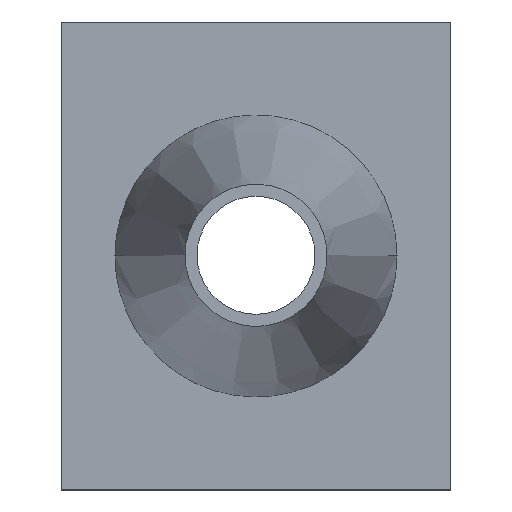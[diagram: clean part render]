
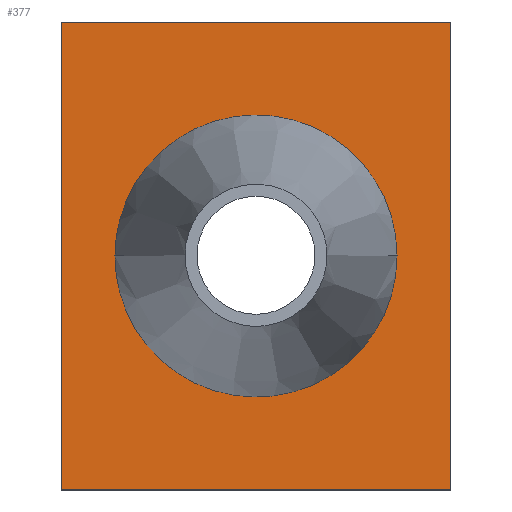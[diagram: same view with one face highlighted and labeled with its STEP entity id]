
A CAD part, top view. The second image highlights one B-rep face of the part: STEP entity #377.
In plain terms, the highlighted planar face has unit normal (0, 0, 1).
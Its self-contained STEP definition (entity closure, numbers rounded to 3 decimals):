
#167=CARTESIAN_POINT('Vertex',(0.,119.,3.)) ;
#174=CARTESIAN_POINT('Vertex',(0.,0.,3.)) ;
#177=CARTESIAN_POINT('Line Origine',(0.,59.5,3.)) ;
#198=CARTESIAN_POINT('Vertex',(99.,119.,3.)) ;
#201=CARTESIAN_POINT('Line Origine',(49.5,119.,3.)) ;
#222=CARTESIAN_POINT('Vertex',(99.,0.,3.)) ;
#225=CARTESIAN_POINT('Line Origine',(99.,59.5,3.)) ;
#242=CARTESIAN_POINT('Line Origine',(49.5,0.,3.)) ;
#324=CARTESIAN_POINT('Axis2P3D Location',(0.,0.,3.)) ;
#336=CARTESIAN_POINT('Control Point',(85.355,59.5,3.)) ;
#337=CARTESIAN_POINT('Control Point',(85.355,65.382,3.)) ;
#338=CARTESIAN_POINT('Control Point',(84.149,71.265,3.)) ;
#339=CARTESIAN_POINT('Control Point',(81.734,76.818,3.)) ;
#340=CARTESIAN_POINT('Control Point',(74.775,86.606,3.)) ;
#341=CARTESIAN_POINT('Control Point',(64.524,92.865,3.)) ;
#342=CARTESIAN_POINT('Control Point',(58.816,94.886,3.)) ;
#343=CARTESIAN_POINT('Control Point',(46.909,96.471,3.)) ;
#344=CARTESIAN_POINT('Control Point',(35.34,93.241,3.)) ;
#345=CARTESIAN_POINT('Control Point',(29.969,90.444,3.)) ;
#346=CARTESIAN_POINT('Control Point',(21.483,83.467,3.)) ;
#347=CARTESIAN_POINT('Control Point',(16.135,73.949,3.)) ;
#348=CARTESIAN_POINT('Control Point',(14.475,69.258,3.)) ;
#349=CARTESIAN_POINT('Control Point',(13.645,64.379,3.)) ;
#350=CARTESIAN_POINT('Control Point',(13.645,59.5,3.)) ;
#351=CARTESIAN_POINT('Vertex',(85.355,59.5,3.)) ;
#353=CARTESIAN_POINT('Vertex',(13.645,59.5,3.)) ;
#357=CARTESIAN_POINT('Control Point',(85.355,59.5,3.)) ;
#358=CARTESIAN_POINT('Control Point',(85.355,53.618,3.)) ;
#359=CARTESIAN_POINT('Control Point',(84.149,47.735,3.)) ;
#360=CARTESIAN_POINT('Control Point',(81.734,42.182,3.)) ;
#361=CARTESIAN_POINT('Control Point',(74.775,32.394,3.)) ;
#362=CARTESIAN_POINT('Control Point',(64.524,26.135,3.)) ;
#363=CARTESIAN_POINT('Control Point',(58.816,24.114,3.)) ;
#364=CARTESIAN_POINT('Control Point',(46.909,22.529,3.)) ;
#365=CARTESIAN_POINT('Control Point',(35.34,25.759,3.)) ;
#366=CARTESIAN_POINT('Control Point',(29.969,28.556,3.)) ;
#367=CARTESIAN_POINT('Control Point',(21.483,35.533,3.)) ;
#368=CARTESIAN_POINT('Control Point',(16.135,45.051,3.)) ;
#369=CARTESIAN_POINT('Control Point',(14.475,49.742,3.)) ;
#370=CARTESIAN_POINT('Control Point',(13.645,54.621,3.)) ;
#371=CARTESIAN_POINT('Control Point',(13.645,59.5,3.)) ;
#178=DIRECTION('Vector Direction',(0.,1.,0.)) ;
#202=DIRECTION('Vector Direction',(-1.,0.,0.)) ;
#226=DIRECTION('Vector Direction',(0.,1.,0.)) ;
#243=DIRECTION('Vector Direction',(1.,0.,0.)) ;
#325=DIRECTION('Axis2P3D Direction',(0.,0.,1.)) ;
#326=DIRECTION('Axis2P3D XDirection',(1.,0.,0.)) ;
#327=AXIS2_PLACEMENT_3D('Plane Axis2P3D',#324,#325,#326) ;
#330=ORIENTED_EDGE('',*,*,#181,.F.) ;
#331=ORIENTED_EDGE('',*,*,#246,.T.) ;
#332=ORIENTED_EDGE('',*,*,#229,.T.) ;
#333=ORIENTED_EDGE('',*,*,#205,.T.) ;
#374=ORIENTED_EDGE('',*,*,#355,.F.) ;
#375=ORIENTED_EDGE('',*,*,#372,.T.) ;
#376=FACE_BOUND('',#373,.T.) ;
#179=VECTOR('Line Direction',#178,1.) ;
#203=VECTOR('Line Direction',#202,1.) ;
#227=VECTOR('Line Direction',#226,1.) ;
#244=VECTOR('Line Direction',#243,1.) ;
#377=ADVANCED_FACE('PartBody',(#334,#376),#328,.T.) ;
#335=B_SPLINE_CURVE_WITH_KNOTS('',5,(#336,#337,#338,#339,#340,#341,#342,#343,#344,#345,#346,#347,#348,#349,#350),.UNSPECIFIED.,.F.,.U.,(6,3,3,3,6),(0.,31.882,63.769,95.656,122.099),.UNSPECIFIED.) ;
#356=B_SPLINE_CURVE_WITH_KNOTS('',5,(#357,#358,#359,#360,#361,#362,#363,#364,#365,#366,#367,#368,#369,#370,#371),.UNSPECIFIED.,.F.,.U.,(6,3,3,3,6),(0.,31.882,63.769,95.656,122.099),.UNSPECIFIED.) ;
#181=EDGE_CURVE('',#175,#168,#180,.T.) ;
#205=EDGE_CURVE('',#199,#168,#204,.T.) ;
#229=EDGE_CURVE('',#223,#199,#228,.T.) ;
#246=EDGE_CURVE('',#175,#223,#245,.T.) ;
#355=EDGE_CURVE('',#352,#354,#335,.T.) ;
#372=EDGE_CURVE('',#352,#354,#356,.T.) ;
#329=EDGE_LOOP('',(#330,#331,#332,#333)) ;
#373=EDGE_LOOP('',(#374,#375)) ;
#334=FACE_OUTER_BOUND('',#329,.T.) ;
#180=LINE('Line',#177,#179) ;
#204=LINE('Line',#201,#203) ;
#228=LINE('Line',#225,#227) ;
#245=LINE('Line',#242,#244) ;
#328=PLANE('',#327) ;
#168=VERTEX_POINT('',#167) ;
#175=VERTEX_POINT('',#174) ;
#199=VERTEX_POINT('',#198) ;
#223=VERTEX_POINT('',#222) ;
#352=VERTEX_POINT('',#351) ;
#354=VERTEX_POINT('',#353) ;
